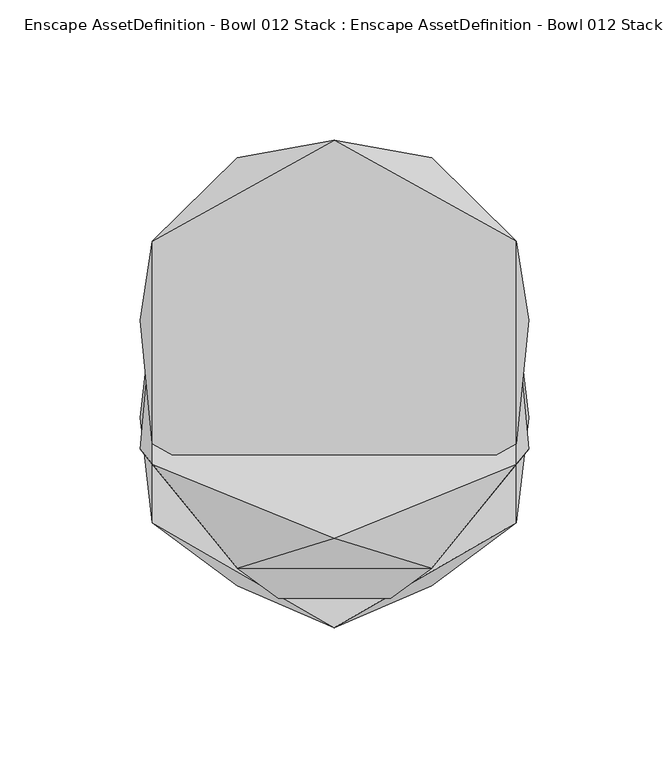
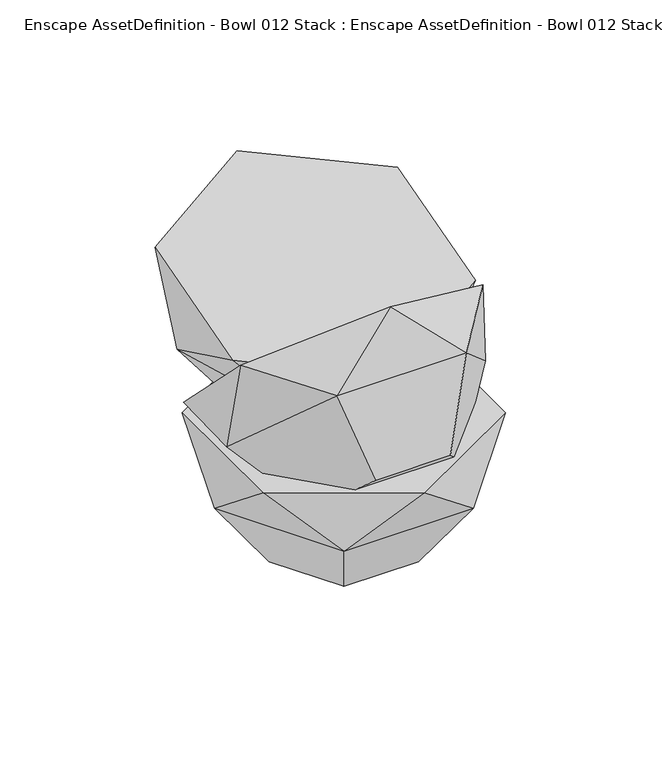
"""IFC4 building model written with IfcOpenShell, lengths in millimetres: geographic element geometry, Enscape AssetDefinition - Bowl 012 Stack : Enscape AssetDefinition - Bowl 012 Stack."""

from ifc_helpers import new_model, si_unit, origin, place, context, project, spatial, triangles, source, transform, mapped, element, save


def enscape_assetdefinition_bowl_012_stack_enscape_61926c2f(model_context):
    return source(origin(), model_context, "Body", "Tessellation", [
        triangles([(20.0059373, 34.7304541, 0.6619463), (34.6617333, 60.1148308, 41.0558288), (-20.0059373, -34.571786, 0.6619463), (69.3224538, 0.0798378, 41.0558288), (64.9303663, 37.56722, 71.0404812), (64.9303663, -37.4075436, 71.0404812), (40.0118746, 0.0798378, 0.6619463), (34.6617333, -59.9551522, 41.0558288), (0.0, -74.8959417, 71.0404812), (0.0, 75.0556158, 71.0404812), (-34.6617333, -59.9551522, 41.0558288), (20.0059373, -34.571786, 0.6619463), (-64.9303663, -37.4075436, 71.0404812), (-64.9303663, 37.56722, 71.0404812), (-20.0059373, 34.7304541, 0.6619463), (-34.6617333, 60.1148308, 41.0558288), (-69.3224538, 0.0798378, 41.0558288), (-40.0118746, 0.0798378, 0.6619463), (-20.0059373, 79.1354222, 80.5452199), (-40.0118746, 45.7612057, 71.2264346), (20.0059373, 79.1354222, 80.5452199), (40.0118746, 45.7612057, 71.2264346), (69.3224538, 34.8982151, 110.1316952), (64.9303663, -9.2712909, 128.9309747), (34.6617333, -22.9245636, 93.9872864), (0.0, -45.3781895, 118.8491773), (64.9303663, 62.9425062, 149.0935521), (34.6617333, 92.7220021, 126.2771214), (0.0, 99.0483873, 159.1743321), (-34.6617333, -22.9245636, 93.9872864), (-69.3224538, 34.8982151, 110.1316952), (-20.0059373, 12.3869858, 61.9076447), (20.0059373, 12.3869858, 61.9076447), (-34.6617333, 92.7220021, 126.2771214), (-64.9303663, 62.9425062, 149.0935521), (-64.9303663, -9.2712909, 128.9309747), (34.6617333, 31.2408347, 40.4262207), (20.0059373, -15.2712529, 29.8128491), (40.0118746, -39.7733717, 54.3149668), (69.3224538, -11.2106416, 82.8776992), (64.9303663, 36.5000227, 77.5720184), (20.0059373, -64.2744834, 78.8170823), (34.6617333, -53.6611096, 125.3281695), (-34.6617333, -53.6611096, 125.3281695), (64.9303663, -16.516319, 130.5873416), (0.0, 63.0071825, 51.0638526), (-64.9303663, -16.516319, 130.5873416), (0.0, -43.0234822, 157.0955164), (-69.3224538, -11.2106416, 82.8776992), (-20.0059373, -64.2744834, 78.8170823), (-64.9303663, 36.5000227, 77.5720184), (-34.6617333, 31.2408347, 40.4262207), (-40.0118746, -39.7733717, 54.3149668), (-20.0059373, -15.2712529, 29.8128491)], [[53, 54, 50], [49, 53, 50], [52, 54, 53], [53, 49, 52], [54, 52, 37], [52, 46, 37], [46, 52, 51], [49, 51, 52], [51, 49, 47], [44, 50, 42], [44, 47, 49], [50, 44, 49], [51, 47, 48], [47, 44, 48], [51, 48, 41], [46, 51, 41], [41, 37, 46], [48, 45, 41], [48, 43, 45], [43, 48, 44], [42, 43, 44], [43, 42, 39], [39, 42, 50], [45, 40, 41], [40, 45, 43], [37, 41, 40], [39, 40, 43], [37, 38, 54], [40, 39, 38], [38, 39, 50], [54, 38, 50], [38, 37, 40], [34, 19, 20], [19, 34, 28], [34, 29, 28], [29, 34, 35], [35, 31, 36], [31, 35, 34], [20, 31, 34], [31, 20, 32], [33, 32, 20], [30, 32, 33], [30, 36, 31], [32, 30, 31], [35, 36, 26], [36, 30, 26], [35, 26, 27], [29, 35, 27], [27, 28, 29], [26, 24, 27], [26, 25, 24], [25, 26, 30], [33, 25, 30], [25, 33, 22], [22, 33, 20], [24, 23, 27], [23, 24, 25], [28, 27, 23], [22, 23, 25], [28, 21, 19], [23, 22, 21], [21, 22, 20], [19, 21, 20], [21, 28, 23], [18, 15, 3], [17, 18, 3], [16, 15, 18], [18, 17, 16], [15, 16, 2], [16, 10, 2], [10, 16, 14], [17, 14, 16], [14, 17, 13], [11, 3, 12], [11, 13, 17], [3, 11, 17], [14, 13, 9], [13, 11, 9], [14, 9, 5], [10, 14, 5], [5, 2, 10], [9, 6, 5], [9, 8, 6], [8, 9, 11], [12, 8, 11], [8, 12, 7], [7, 12, 3], [6, 4, 5], [4, 6, 8], [2, 5, 4], [7, 4, 8], [2, 1, 15], [4, 7, 1], [1, 7, 3], [15, 1, 3], [1, 2, 4]]),
    ])


if __name__ == "__main__":
    model = new_model("IFC4")
    model_context = context("Model", 3, world=origin())
    ifc_project = project(units=[si_unit("LENGTHUNIT", "METRE", prefix="MILLI")], contexts=[model_context])
    site = spatial("IfcSite", under=ifc_project)
    building = spatial("IfcBuilding", under=site)
    placement = place(None, origin())
    enscape_assetdefinition_bowl_012_stack_enscape_shape = enscape_assetdefinition_bowl_012_stack_enscape_61926c2f(model_context)
    element("IfcGeographicElement", 1, ObjectType="Enscape AssetDefinition - Bowl 012 Stack : Enscape AssetDefinition - Bowl 012 Stack", at=placement, inside=building, context=model_context, shape_type="MappedRepresentation", body=[
        mapped(enscape_assetdefinition_bowl_012_stack_enscape_shape, transform((0.0, 0.0, 0.0), x_axis=(1.0, 0.0, 0.0), y_axis=(0.0, 1.0, 0.0), z_axis=(0.0, 0.0, 1.0))),
    ])
    save(model, "model.ifc")
